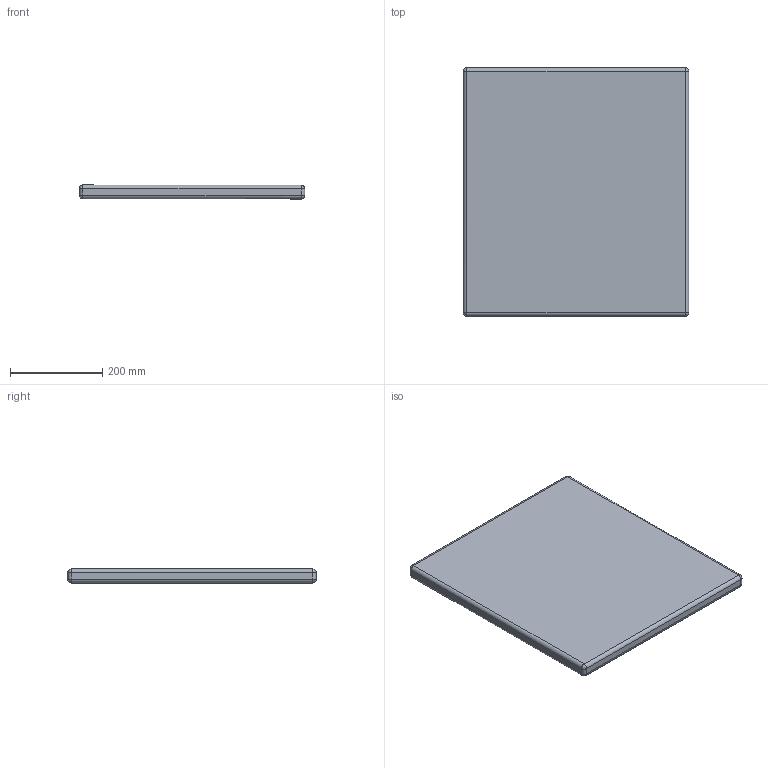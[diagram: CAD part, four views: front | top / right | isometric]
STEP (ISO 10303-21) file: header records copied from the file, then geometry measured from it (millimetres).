
FILE_DESCRIPTION(/* description */ (''),/* implementation_level */ '2;1');
FILE_NAME(/* name */ 'FRAMA_01-Cushion Easy Chair-3D',/* time_stamp */ '2025-11-11T14:10:49+01:00',/* author */ (''),/* organization */ (''),/* preprocessor_version */ 'ST-DEVELOPER v16.5',/* originating_system */ 'Rhino 7.38',/* authorisation */ '');
FILE_SCHEMA (('CONFIG_CONTROL_DESIGN'));
Length unit declared in the file: millimetre
Products named in the file (1): Document
Bounding box: 490.01 x 540 x 30.49 mm (x, y, z)
Volume: 7880450.3 mm3; surface area: 576368.9 mm2
Topology: 1 solids, 1 shells, 26 faces, 48 edges, 24 vertices
Faces by surface type: cylinder 12, bspline 8, plane 6
Entity records: 720 total; most frequent: CARTESIAN_POINT 304, ORIENTED_EDGE 96, EDGE_CURVE 48, ADVANCED_FACE 26, FACE_OUTER_BOUND 26, EDGE_LOOP 26, B_SPLINE_CURVE_WITH_KNOTS 24, VERTEX_POINT 24
